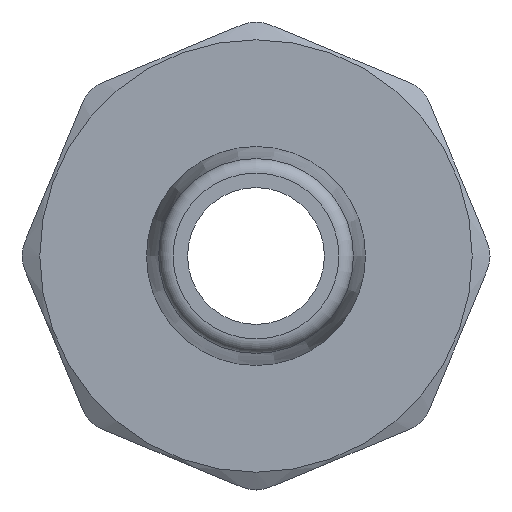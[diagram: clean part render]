
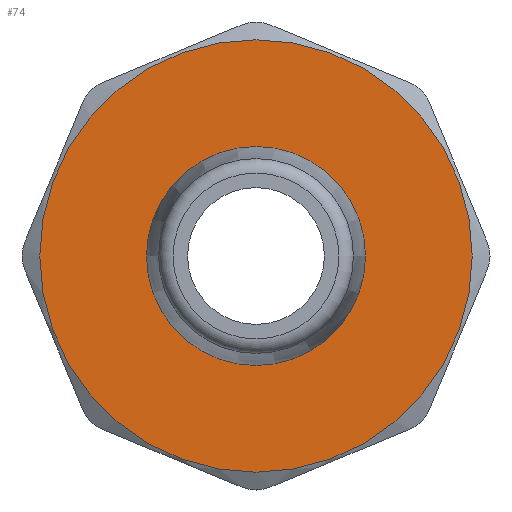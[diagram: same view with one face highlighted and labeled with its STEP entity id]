
A CAD part, front view. The second image highlights one B-rep face of the part: STEP entity #74.
In plain terms, the highlighted planar face has unit normal (0, -1, 0).
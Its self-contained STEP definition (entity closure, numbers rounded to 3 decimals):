
#74=ADVANCED_FACE('',(#319,#321),#323,.F.);
#319=FACE_BOUND('',#320,.T.);
#320=EDGE_LOOP('',(#510));
#321=FACE_BOUND('',#322,.T.);
#322=EDGE_LOOP('',(#511));
#323=PLANE('',#324);
#324=AXIS2_PLACEMENT_3D('',#325,#326,#327);
#325=CARTESIAN_POINT('',(0.,-15.,0.));
#326=DIRECTION('',(0.,1.,0.));
#327=DIRECTION('',(-1.,0.,0.));
#510=ORIENTED_EDGE('',*,*,#587,.T.);
#511=ORIENTED_EDGE('',*,*,#589,.F.);
#587=EDGE_CURVE('',#705,#705,#706,.F.);
#589=EDGE_CURVE('',#709,#709,#710,.T.);
#705=VERTEX_POINT('',#1960);
#706=CIRCLE('',#1961,11.85);
#709=VERTEX_POINT('',#1970);
#710=CIRCLE('',#1971,6.);
#1960=CARTESIAN_POINT('',(11.85,-15.,0.));
#1961=AXIS2_PLACEMENT_3D('',#1962,#1963,#1964);
#1962=CARTESIAN_POINT('',(0.,-15.,0.));
#1963=DIRECTION('',(0.,1.,0.));
#1964=DIRECTION('',(1.,0.,0.));
#1970=CARTESIAN_POINT('',(-6.,-15.,0.));
#1971=AXIS2_PLACEMENT_3D('',#1972,#1973,#1974);
#1972=CARTESIAN_POINT('',(0.,-15.,0.));
#1973=DIRECTION('',(0.,-1.,0.));
#1974=DIRECTION('',(-1.,0.,0.));
